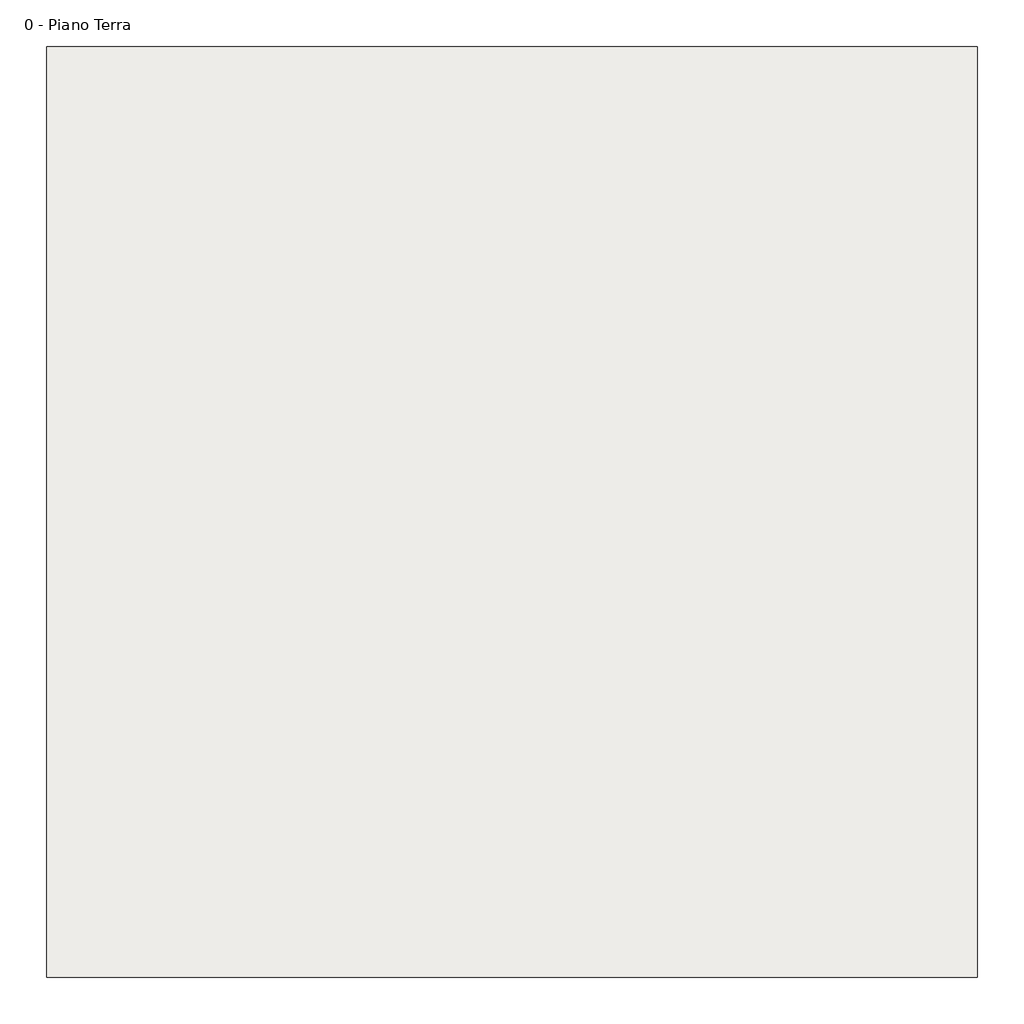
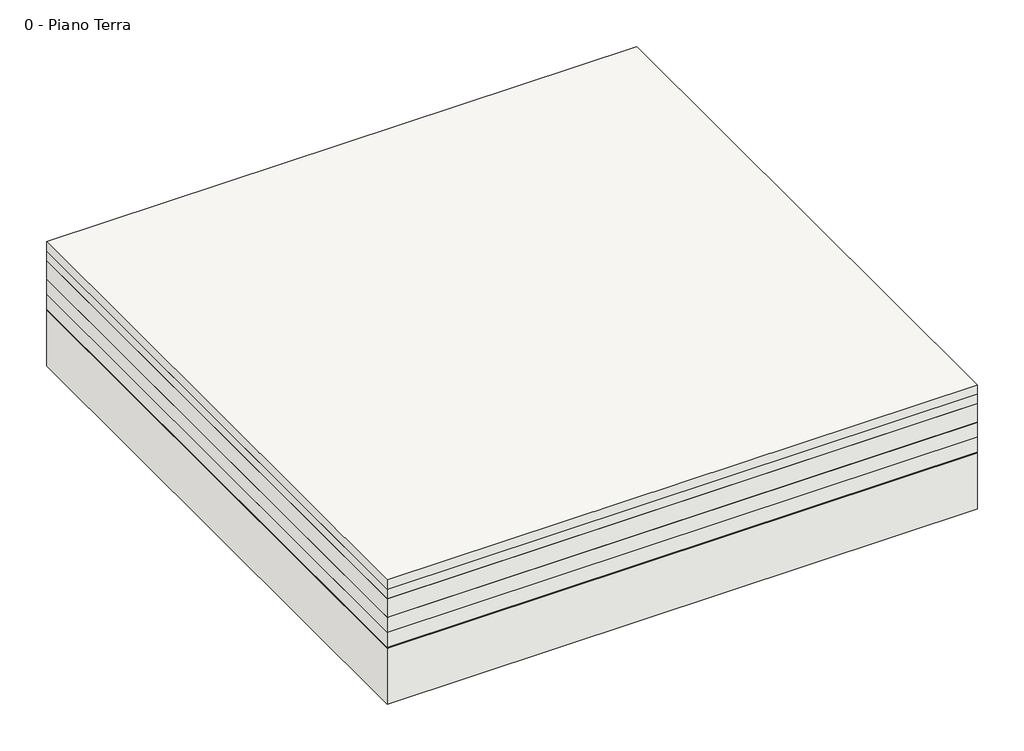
# One storey: 1 roof.
"""IFC4 building model written with IfcOpenShell, lengths in millimetres."""

from ifc_helpers import new_model, si_unit, frame, origin, place, context, project, spatial, polyline, outline, extrude, element, save

model = new_model("IFC4")

# Units and contexts
model_context = context("Model", 3, world=origin())
ifc_project = project(units=[si_unit("LENGTHUNIT", "METRE", prefix="MILLI")], contexts=[model_context])

# Site, building, storey
site = spatial("IfcSite", under=ifc_project)
building = spatial("IfcBuilding", under=site)
storey = spatial("IfcBuildingStorey", under=building, Name="0 - Piano Terra", Elevation=0.0)

# Roof
placement = place(None, origin())
element("IfcRoof", 1, ObjectType="DAKU_Estensivo inclinato", at=placement, inside=storey, context=model_context, shape_type="SweptSolid", body=[
    extrude(outline(polyline([(-2870.1562471, 169.1847265), (129.8437529, 169.1847265), (129.8437529, -2830.8152735), (-2870.1562471, -2830.8152735), (-2870.1562471, 169.1847265)])), frame((0.0, 0.0, 33.5), z_axis=(0.0, 0.0, 1.0), x_axis=(1.0, 0.0, 0.0)), (0.0, 0.0, 1.0), 50.0),
    extrude(outline(polyline([(-2870.1562471, 169.1847265), (129.8437529, 169.1847265), (129.8437529, -2830.8152735), (-2870.1562471, -2830.8152735), (-2870.1562471, 169.1847265)])), frame((0.0, 0.0, -16.5), z_axis=(0.0, 0.0, 1.0), x_axis=(1.0, 0.0, 0.0)), (0.0, 0.0, 1.0), 50.0),
    extrude(outline(polyline([(-2870.1562471, 169.1847265), (129.8437529, 169.1847265), (129.8437529, -2830.8152735), (-2870.1562471, -2830.8152735), (-2870.1562471, 169.1847265)])), frame((0.0, 0.0, -116.5), z_axis=(0.0, 0.0, 1.0), x_axis=(1.0, 0.0, 0.0)), (0.0, 0.0, 1.0), 100.0),
    extrude(outline(polyline([(-2870.1562471, 169.1847265), (129.8437529, 169.1847265), (129.8437529, -2830.8152735), (-2870.1562471, -2830.8152735), (-2870.1562471, 169.1847265)])), frame((0.0, 0.0, -118.0), z_axis=(0.0, 0.0, 1.0), x_axis=(1.0, 0.0, 0.0)), (0.0, 0.0, 1.0), 1.5),
    extrude(outline(polyline([(-2870.1562471, 169.1847265), (129.8437529, 169.1847265), (129.8437529, -2830.8152735), (-2870.1562471, -2830.8152735), (-2870.1562471, 169.1847265)])), frame((0.0, 0.0, -198.0), z_axis=(0.0, 0.0, 1.0), x_axis=(1.0, 0.0, 0.0)), (0.0, 0.0, 1.0), 80.0),
    extrude(outline(polyline([(-2870.1562471, 169.1847265), (129.8437529, 169.1847265), (129.8437529, -2830.8152735), (-2870.1562471, -2830.8152735), (-2870.1562471, 169.1847265)])), frame((0.0, 0.0, -278.0), z_axis=(0.0, 0.0, 1.0), x_axis=(1.0, 0.0, 0.0)), (0.0, 0.0, 1.0), 80.0),
    extrude(outline(polyline([(-2870.1562471, 169.1847265), (129.8437529, 169.1847265), (129.8437529, -2830.8152735), (-2870.1562471, -2830.8152735), (-2870.1562471, 169.1847265)])), frame((0.0, 0.0, -283.0), z_axis=(0.0, 0.0, 1.0), x_axis=(1.0, 0.0, 0.0)), (0.0, 0.0, 1.0), 5.0),
    extrude(outline(polyline([(-2870.1562471, 169.1847265), (129.8437529, 169.1847265), (129.8437529, -2830.8152735), (-2870.1562471, -2830.8152735), (-2870.1562471, 169.1847265)])), frame((0.0, 0.0, -284.3), z_axis=(0.0, 0.0, 1.0), x_axis=(1.0, 0.0, 0.0)), (0.0, 0.0, 1.0), 1.3),
    extrude(outline(polyline([(-2870.1562471, 169.1847265), (129.8437529, 169.1847265), (129.8437529, -2830.8152735), (-2870.1562471, -2830.8152735), (-2870.1562471, 169.1847265)])), frame((0.0, 0.0, -584.3), z_axis=(0.0, 0.0, 1.0), x_axis=(1.0, 0.0, 0.0)), (0.0, 0.0, 1.0), 300.0),
])

save(model, "model.ifc")
